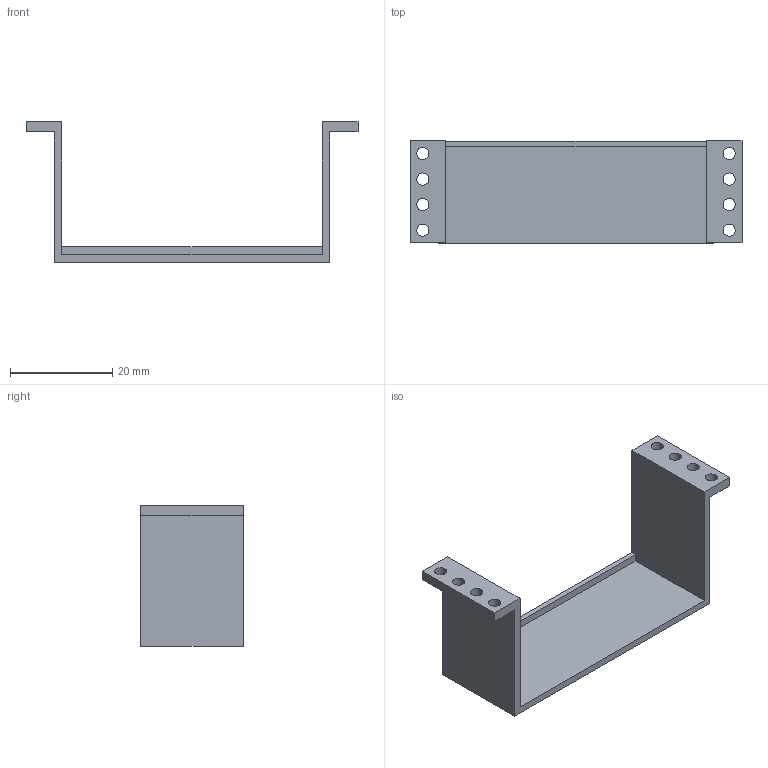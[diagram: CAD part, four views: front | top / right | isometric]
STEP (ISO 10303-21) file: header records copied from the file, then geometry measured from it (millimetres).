
FILE_DESCRIPTION(/* description */ (''),/* implementation_level */ '2;1');
FILE_NAME(/* name */ 'BatterHolderTurnigy5000 v6.step',/* time_stamp */ '2025-10-09T06:00:09+02:00',/* author */ (''),/* organization */ (''),/* preprocessor_version */ 'ST-DEVELOPER v20.1',/* originating_system */ 'Autodesk Translation Framework v14.17.0.0',/* authorisation */ '');
FILE_SCHEMA (('AUTOMOTIVE_DESIGN { 1 0 10303 214 3 1 1 }'));
Length unit declared in the file: millimetre
Products named in the file (1): BatterHolderTurnigy5000
Bounding box: 65 x 20 x 27.5 mm (x, y, z)
Volume: 3624.1 mm3; surface area: 5300.3 mm2
Topology: 1 solids, 1 shells, 24 faces, 66 edges, 44 vertices
Faces by surface type: plane 16, cylinder 8
Full cylindrical faces by diameter (mm): 2.4 x8
Entity records: 831 total; most frequent: CARTESIAN_POINT 135, ORIENTED_EDGE 132, DIRECTION 132, EDGE_CURVE 66, LINE 50, VECTOR 50, VERTEX_POINT 44, AXIS2_PLACEMENT_3D 41
